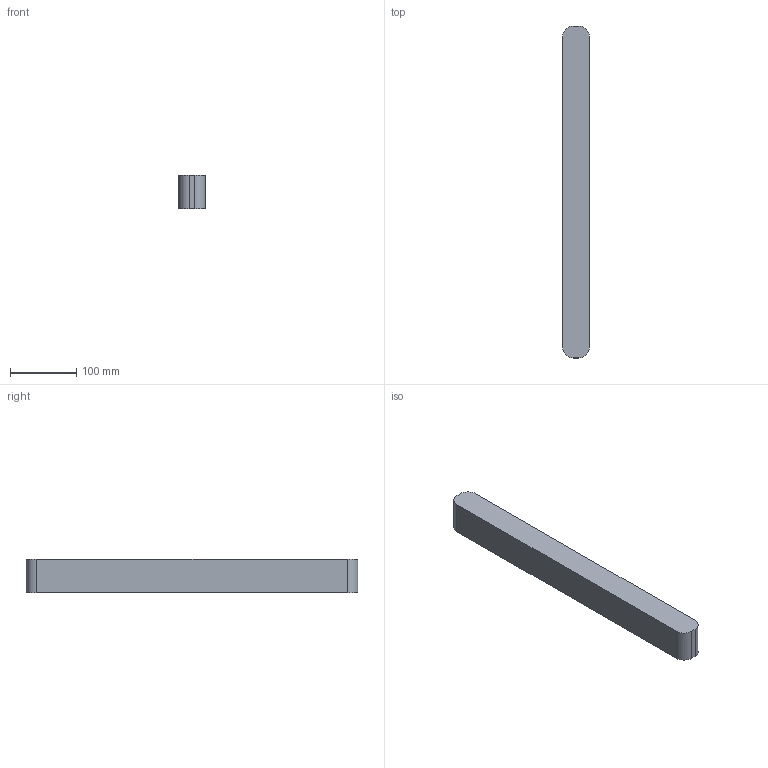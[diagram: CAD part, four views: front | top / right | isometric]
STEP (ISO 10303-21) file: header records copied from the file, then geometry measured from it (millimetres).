
FILE_DESCRIPTION(('Open CASCADE Model'),'2;1');
FILE_NAME('Open CASCADE Shape Model','2026-09-19T16:36:15',('Author'),( 'Open CASCADE'),'Open CASCADE STEP processor 7.8','Open CASCADE 7.8' ,'Unknown');
FILE_SCHEMA(('AUTOMOTIVE_DESIGN { 1 0 10303 214 1 1 1 1 }'));
Length unit declared in the file: millimetre
Products named in the file (1): Open CASCADE STEP translator 7.8 19
Bounding box: 40 x 500 x 50 mm (x, y, z)
Volume: 989012.4 mm3; surface area: 92187 mm2
Topology: 1 solids, 1 shells, 10 faces, 24 edges, 16 vertices
Faces by surface type: plane 6, cylinder 4
Entity records: 630 total; most frequent: CARTESIAN_POINT 123, DIRECTION 98, LINE 56, VECTOR 56, ORIENTED_EDGE 48, PCURVE 48, DEFINITIONAL_REPRESENTATION 48, EDGE_CURVE 24
